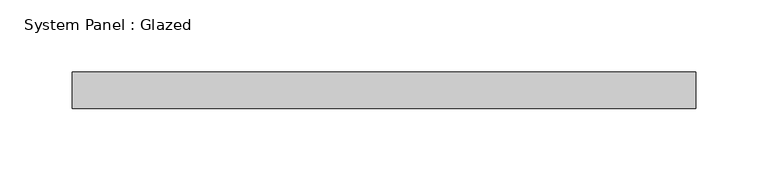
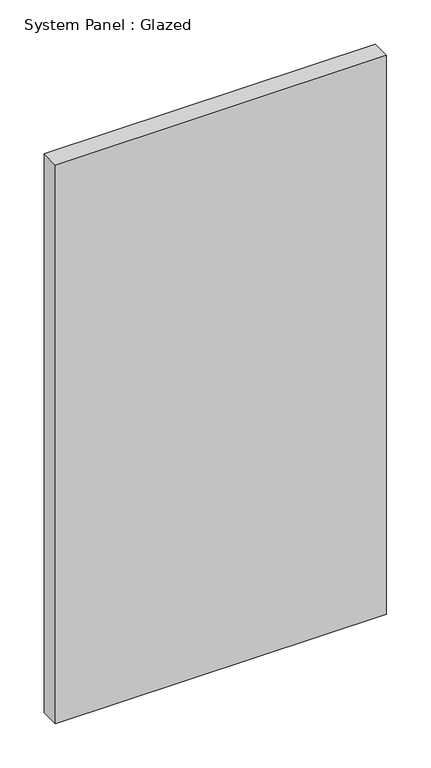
"""IFC4 building model written with IfcOpenShell, lengths in millimetres: plate geometry, System Panel : Glazed."""

import ifcopenshell
import ifcopenshell.guid

model = None  # the IFC model being written
_history = None  # IfcOwnerHistory: only IFC2X3 demands one
_inside = {}  # id of a spatial element -> (the spatial element, [elements in it])
_under = {}  # id of a project, library or spatial element -> (it, [spatial elements below it])
_declared = {}  # id of a project -> (the project, [libraries it declares])
_typed = {}  # id of a type object -> (the type object, [elements of that type])
_made_of = {}  # id of a material, layer set ... -> (it, [elements and type objects made of it])


def new_model(schema):
    """Start an empty IFC model of exactly this schema.

    Asked for "IFC4X3", IfcOpenShell would pick the latest addendum, in which some entities
    have other attributes; the version numbers below select the first issue.
    IFC2X3 requires an IfcOwnerHistory on every rooted entity: one is made here for all.
    """
    global model, _history
    if schema == "IFC4X3":
        model = ifcopenshell.file(schema_version=(4, 3, 0, 0))
    else:
        model = ifcopenshell.file(schema=schema)
    _inside.clear()
    _under.clear()
    _declared.clear()
    _typed.clear()
    _made_of.clear()
    _history = None
    if model.schema == "IFC2X3":
        org = make("IfcOrganization", Name="unknown")
        user = make(
            "IfcPersonAndOrganization",
            ThePerson=make("IfcPerson", FamilyName="unknown"),
            TheOrganization=org,
        )
        app = make(
            "IfcApplication",
            ApplicationDeveloper=org,
            Version="unknown",
            ApplicationFullName="unknown",
            ApplicationIdentifier="unknown",
        )
        _history = make(
            "IfcOwnerHistory",
            OwningUser=user,
            OwningApplication=app,
            ChangeAction="ADDED",
            CreationDate=0,
        )
    return model


def make(cls, **values):
    """One entity of the class cls with the attributes given. An attribute that is None is left unset."""
    return model.create_entity(
        cls, **{name: value for name, value in values.items() if value is not None}
    )


def rooted(cls, **values):
    """An entity with a GlobalId (a new one), such as an element, a storey or a relation."""
    return make(cls, GlobalId=ifcopenshell.guid.new(), OwnerHistory=_history, **values)


def si_unit(unit_type, name, prefix=None):
    """IfcSIUnit, for example si_unit("LENGTHUNIT", "METRE", prefix="MILLI")."""
    return make("IfcSIUnit", UnitType=unit_type, Prefix=prefix, Name=name)


def assignment(units):
    """IfcUnitAssignment: the units of a project."""
    return None if units is None else make("IfcUnitAssignment", Units=units)


def point(xyz):
    """IfcCartesianPoint."""
    return None if xyz is None else make("IfcCartesianPoint", Coordinates=xyz)


def direction(xyz):
    """IfcDirection."""
    return None if xyz is None else make("IfcDirection", DirectionRatios=xyz)


def frame(location, z_axis=None, x_axis=None):
    """IfcAxis2Placement3D, a coordinate frame: its origin and axes. An axis left out is left unset."""
    return make(
        "IfcAxis2Placement3D",
        Location=point(location),
        Axis=direction(z_axis),
        RefDirection=direction(x_axis),
    )


def origin():
    """The frame at (0, 0, 0) with its axes left unset."""
    return frame((0.0, 0.0, 0.0))


def origin_with_axes():
    """The frame at (0, 0, 0) with the z axis (0, 0, 1) and the x axis (1, 0, 0) written out."""
    return frame((0.0, 0.0, 0.0), z_axis=(0.0, 0.0, 1.0), x_axis=(1.0, 0.0, 0.0))


def place(relative_to, where):
    """IfcLocalPlacement: puts the frame where relative to a parent placement (None: the world)."""
    return make(
        "IfcLocalPlacement", PlacementRelTo=relative_to, RelativePlacement=where
    )


def context(
    kind, dimensions, precision=None, world=None, true_north=None, identifier=None
):
    """IfcGeometricRepresentationContext, for example the 3D "Model" context."""
    return make(
        "IfcGeometricRepresentationContext",
        ContextIdentifier=identifier,
        ContextType=kind,
        CoordinateSpaceDimension=dimensions,
        Precision=precision,
        WorldCoordinateSystem=world,
        TrueNorth=true_north,
    )


def project(units=None, contexts=None):
    """IfcProject with its units and contexts."""
    return rooted(
        "IfcProject",
        Name="project",
        RepresentationContexts=contexts,
        UnitsInContext=assignment(units),
    )


def spatial(cls, under=None, at=None, **own):
    """A site, building, storey or space (cls), placed at a placement, below another one or the project."""
    s = rooted(cls, ObjectPlacement=at, **own)
    if under is not None:
        _under.setdefault(under.id(), (under, []))[1].append(s)
    return s


def polyline(points):
    """IfcPolyline through the points."""
    return make("IfcPolyline", Points=[point(p) for p in points])


def outline(outer, holes=None, kind="AREA"):
    """IfcArbitraryClosedProfileDef: a profile drawn as a closed curve; with holes, ...WithVoids."""
    if holes is None:
        return make("IfcArbitraryClosedProfileDef", ProfileType=kind, OuterCurve=outer)
    return make(
        "IfcArbitraryProfileDefWithVoids",
        ProfileType=kind,
        OuterCurve=outer,
        InnerCurves=holes,
    )


def extrude(swept, where, along, depth):
    """IfcExtrudedAreaSolid: the profile swept, set in the frame where, extruded along a direction by depth."""
    return make(
        "IfcExtrudedAreaSolid",
        SweptArea=swept,
        Position=where,
        ExtrudedDirection=direction(along),
        Depth=depth,
    )


def shape(context_of_items, identifier, shape_type, items):
    """IfcShapeRepresentation: the items that make up one representation, for example the "Body"."""
    return make(
        "IfcShapeRepresentation",
        ContextOfItems=context_of_items,
        RepresentationIdentifier=identifier,
        RepresentationType=shape_type,
        Items=items,
    )


def source(mapping_origin, context_of_items, identifier, shape_type, items):
    """IfcRepresentationMap: a shape defined once, which mapped items show again and again."""
    return make(
        "IfcRepresentationMap",
        MappingOrigin=mapping_origin,
        MappedRepresentation=shape(context_of_items, identifier, shape_type, items),
    )


def transform(
    local_origin,
    x_axis=None,
    y_axis=None,
    z_axis=None,
    scale=None,
    scale2=None,
    scale3=None,
    uniform=True,
):
    """IfcCartesianTransformationOperator3D, or its non-uniform kind. x_axis, y_axis, z_axis: its Axis1, 2, 3."""
    if uniform:
        return make(
            "IfcCartesianTransformationOperator3D",
            Axis1=direction(x_axis),
            Axis2=direction(y_axis),
            LocalOrigin=point(local_origin),
            Scale=scale,
            Axis3=direction(z_axis),
        )
    return make(
        "IfcCartesianTransformationOperator3DnonUniform",
        Axis1=direction(x_axis),
        Axis2=direction(y_axis),
        LocalOrigin=point(local_origin),
        Scale=scale,
        Axis3=direction(z_axis),
        Scale2=scale2,
        Scale3=scale3,
    )


def mapped(mapping_source, mapping_target):
    """IfcMappedItem: shows the shape of a source again, moved by a transform."""
    return make(
        "IfcMappedItem", MappingSource=mapping_source, MappingTarget=mapping_target
    )


def made_of(thing, what):
    """Note that an element or type object is made of a material, layer set ...; save() writes the relation."""
    if what is not None:
        _made_of.setdefault(what.id(), (what, []))[1].append(thing)
    return thing


def element(
    cls,
    number,
    at=None,
    inside=None,
    cuts=None,
    type_object=None,
    material=None,
    context=None,
    identifier="Body",
    shape_type=None,
    held_by="IfcProductDefinitionShape",
    body=None,
    shapes=None,
    **own,
):
    """One element of the class cls, such as IfcWall. Its Tag is "e" and its number.

    at: its placement. inside: the storey or other place that contains it. cuts: it is an
    opening in that element (IfcRelVoidsElement). A single representation is given by context,
    identifier, shape_type and body (its items); several are given by shapes. held_by: the class
    of the entity that holds the representations. save() writes the other relations.
    """
    e = rooted(cls, Tag="e%d" % number, ObjectPlacement=at, **own)
    if body is not None:
        shapes = [shape(context, identifier, shape_type, body)]
    if shapes is not None:
        e.Representation = make(held_by, Representations=shapes)
    if inside is not None:
        _inside.setdefault(inside.id(), (inside, []))[1].append(e)
    if cuts is not None:
        rooted(
            "IfcRelVoidsElement", RelatingBuildingElement=cuts, RelatedOpeningElement=e
        )
    if type_object is not None:
        _typed.setdefault(type_object.id(), (type_object, []))[1].append(e)
    return made_of(e, material)


def aggregate(whole, parts):
    """IfcRelAggregates: a whole, such as a stair, and the parts it consists of."""
    return rooted("IfcRelAggregates", RelatingObject=whole, RelatedObjects=parts)


def save(model, path):
    """Write the relations noted so far, then the file.

    IfcRelAggregates (storeys below a building ...), IfcRelContainedInSpatialStructure (elements
    in a storey), IfcRelDefinesByType, IfcRelAssociatesMaterial and IfcRelDeclares: one each for
    every whole, place, type object, material and project.
    """
    for whole, parts in _under.values():
        aggregate(whole, parts)
    for where, things in _inside.values():
        rooted(
            "IfcRelContainedInSpatialStructure",
            RelatedElements=things,
            RelatingStructure=where,
        )
    for kind, things in _typed.values():
        rooted("IfcRelDefinesByType", RelatedObjects=things, RelatingType=kind)
    for what, things in _made_of.values():
        rooted("IfcRelAssociatesMaterial", RelatedObjects=things, RelatingMaterial=what)
    for by, libraries in _declared.values():
        rooted("IfcRelDeclares", RelatingContext=by, RelatedDefinitions=libraries)
    model.write(path)


def system_panel_glazed_5f2f0821(model_context):
    return source(origin(), model_context, "Body", "SweptSolid", [
        extrude(outline(polyline([(215.9, -44.45), (-215.9, -44.45), (-215.9, -19.05), (215.9, -19.05), (215.9, -44.45)])), origin_with_axes(), (0.0, 0.0, 1.0), 770.6690025),
    ])


if __name__ == "__main__":
    model = new_model("IFC4")
    model_context = context("Model", 3, world=origin())
    ifc_project = project(units=[si_unit("LENGTHUNIT", "METRE", prefix="MILLI")], contexts=[model_context])
    site = spatial("IfcSite", under=ifc_project)
    building = spatial("IfcBuilding", under=site)
    placement = place(None, origin())
    system_panel_glazed_shape = system_panel_glazed_5f2f0821(model_context)
    element("IfcPlate", 1, ObjectType="System Panel : Glazed", at=placement, inside=building, context=model_context, shape_type="MappedRepresentation", body=[
        mapped(system_panel_glazed_shape, transform((0.0, 0.0, 0.0), x_axis=(1.0, 0.0, 0.0), y_axis=(0.0, 1.0, 0.0), z_axis=(0.0, 0.0, 1.0))),
    ])
    save(model, "model.ifc")
